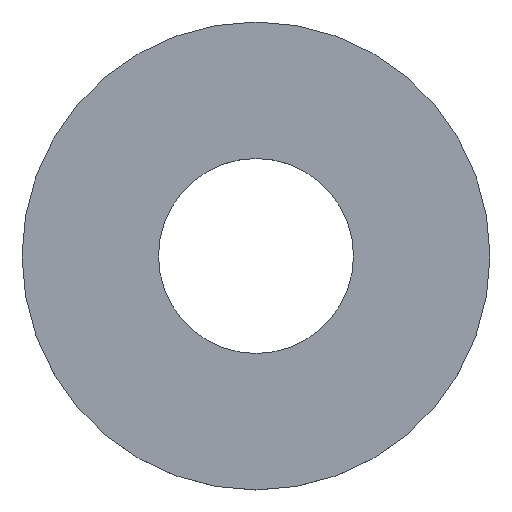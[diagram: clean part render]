
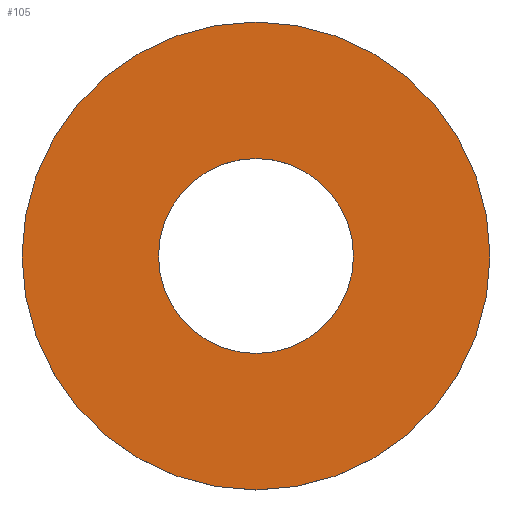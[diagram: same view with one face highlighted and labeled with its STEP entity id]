
A CAD part, top view. The second image highlights one B-rep face of the part: STEP entity #105.
In plain terms, the highlighted planar face has unit normal (0, 0, 1).
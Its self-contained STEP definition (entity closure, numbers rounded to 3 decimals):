
#21 = EDGE_CURVE('',#22,#22,#24,.T.);
#22 = VERTEX_POINT('',#23);
#23 = CARTESIAN_POINT('',(5.4,0.,0.5));
#24 = SURFACE_CURVE('',#25,(#30,#42),.PCURVE_S1.);
#25 = CIRCLE('',#26,5.4);
#26 = AXIS2_PLACEMENT_3D('',#27,#28,#29);
#27 = CARTESIAN_POINT('',(0.,0.,0.5));
#28 = DIRECTION('',(0.,0.,1.));
#29 = DIRECTION('',(1.,0.,-0.));
#30 = PCURVE('',#31,#36);
#31 = CYLINDRICAL_SURFACE('',#32,5.4);
#32 = AXIS2_PLACEMENT_3D('',#33,#34,#35);
#33 = CARTESIAN_POINT('',(0.,0.,0.));
#34 = DIRECTION('',(0.,0.,1.));
#35 = DIRECTION('',(1.,0.,-0.));
#36 = DEFINITIONAL_REPRESENTATION('',(#37),#41);
#37 = LINE('',#38,#39);
#38 = CARTESIAN_POINT('',(0.,0.5));
#39 = VECTOR('',#40,1.);
#40 = DIRECTION('',(1.,0.));
#41 = ( GEOMETRIC_REPRESENTATION_CONTEXT(2) 
PARAMETRIC_REPRESENTATION_CONTEXT() REPRESENTATION_CONTEXT('2D SPACE',''
  ) );
#42 = PCURVE('',#43,#48);
#43 = PLANE('',#44);
#44 = AXIS2_PLACEMENT_3D('',#45,#46,#47);
#45 = CARTESIAN_POINT('',(0.,0.,0.5));
#46 = DIRECTION('',(0.,0.,1.));
#47 = DIRECTION('',(1.,0.,-0.));
#48 = DEFINITIONAL_REPRESENTATION('',(#49),#53);
#49 = CIRCLE('',#50,5.4);
#50 = AXIS2_PLACEMENT_2D('',#51,#52);
#51 = CARTESIAN_POINT('',(0.,0.));
#52 = DIRECTION('',(1.,0.));
#53 = ( GEOMETRIC_REPRESENTATION_CONTEXT(2) 
PARAMETRIC_REPRESENTATION_CONTEXT() REPRESENTATION_CONTEXT('2D SPACE',''
  ) );
#105 = ADVANCED_FACE('',(#106,#109),#43,.T.);
#106 = FACE_BOUND('',#107,.T.);
#107 = EDGE_LOOP('',(#108));
#108 = ORIENTED_EDGE('',*,*,#21,.T.);
#109 = FACE_BOUND('',#110,.T.);
#110 = EDGE_LOOP('',(#111));
#111 = ORIENTED_EDGE('',*,*,#112,.F.);
#112 = EDGE_CURVE('',#113,#113,#115,.T.);
#113 = VERTEX_POINT('',#114);
#114 = CARTESIAN_POINT('',(2.25,0.,0.5));
#115 = SURFACE_CURVE('',#116,(#121,#128),.PCURVE_S1.);
#116 = CIRCLE('',#117,2.25);
#117 = AXIS2_PLACEMENT_3D('',#118,#119,#120);
#118 = CARTESIAN_POINT('',(0.,0.,0.5));
#119 = DIRECTION('',(0.,0.,1.));
#120 = DIRECTION('',(1.,0.,-0.));
#121 = PCURVE('',#43,#122);
#122 = DEFINITIONAL_REPRESENTATION('',(#123),#127);
#123 = CIRCLE('',#124,2.25);
#124 = AXIS2_PLACEMENT_2D('',#125,#126);
#125 = CARTESIAN_POINT('',(0.,0.));
#126 = DIRECTION('',(1.,0.));
#127 = ( GEOMETRIC_REPRESENTATION_CONTEXT(2) 
PARAMETRIC_REPRESENTATION_CONTEXT() REPRESENTATION_CONTEXT('2D SPACE',''
  ) );
#128 = PCURVE('',#129,#134);
#129 = CYLINDRICAL_SURFACE('',#130,2.25);
#130 = AXIS2_PLACEMENT_3D('',#131,#132,#133);
#131 = CARTESIAN_POINT('',(0.,0.,-0.01));
#132 = DIRECTION('',(0.,0.,1.));
#133 = DIRECTION('',(1.,0.,-0.));
#134 = DEFINITIONAL_REPRESENTATION('',(#135),#139);
#135 = LINE('',#136,#137);
#136 = CARTESIAN_POINT('',(0.,0.51));
#137 = VECTOR('',#138,1.);
#138 = DIRECTION('',(1.,0.));
#139 = ( GEOMETRIC_REPRESENTATION_CONTEXT(2) 
PARAMETRIC_REPRESENTATION_CONTEXT() REPRESENTATION_CONTEXT('2D SPACE',''
  ) );
